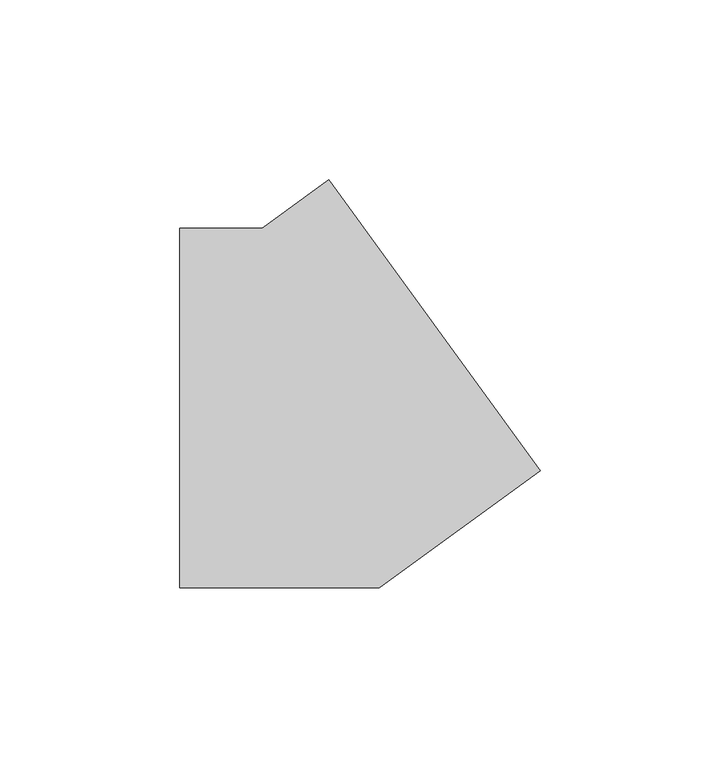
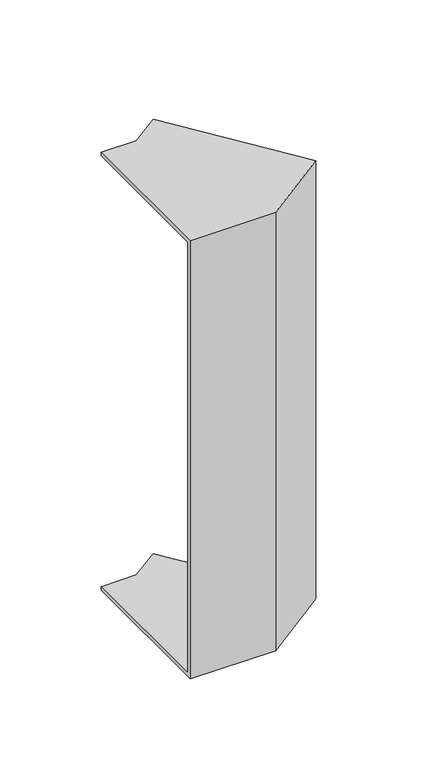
"""IFC4 building model written with IfcOpenShell, lengths in millimetres: cable carrier fitting geometry, ADSK_Поворот вертикальный внутренний_Минимальный размер : Неперфорированный."""

from ifc_helpers import new_model, si_unit, origin, place, context, project, spatial, faceted_brep, source, transform, mapped, element, save


def cable_carrier_fitting_02251f9b(model_context):
    return source(origin(), model_context, "Body", "Brep", [
        faceted_brep([(-39.1165681, -50.0, 150.0), (-39.1165681, 50.0, 150.0), (-39.1165681, 50.0, 147.46), (-39.1165681, -47.46, 147.46), (-39.1165681, -47.46, -147.46), (-39.1165681, 50.0, -147.46), (-39.1165681, 50.0, -150.0), (-39.1165681, -50.0, -150.0), (61.035231, -17.4587079, 150.0), (61.035231, -17.4587079, -150.0), (2.2567057, 63.4429916, -150.0), (2.2567057, 63.4429916, -147.46), (59.5422564, -15.4038047, -147.46), (59.5422564, -15.4038047, 147.46), (2.2567057, 63.4429916, 147.46), (2.2567057, 63.4429916, 150.0), (16.2459848, -50.0, 150.0), (-16.2459848, 50.0, 150.0), (-16.2459848, 50.0, 147.46), (15.4206888, -47.46, 147.46), (15.4206888, -47.46, -147.46), (-16.2459848, 50.0, -147.46), (-16.2459848, 50.0, -150.0), (16.2459848, -50.0, -150.0)], [[[0, 1, 2, 3, 4, 5, 6, 7]], [[8, 9, 10, 11, 12, 13, 14, 15]], [[1, 0, 16, 8, 15, 17]], [[2, 1, 17, 18]], [[3, 2, 18, 14, 13, 19]], [[4, 3, 19, 20]], [[5, 4, 20, 12, 11, 21]], [[6, 5, 21, 22]], [[7, 6, 22, 10, 9, 23]], [[0, 7, 23, 16]], [[18, 17, 15, 14]], [[20, 19, 13, 12]], [[22, 21, 11, 10]], [[16, 23, 9, 8]]]),
    ])


if __name__ == "__main__":
    model = new_model("IFC4")
    model_context = context("Model", 3, world=origin())
    ifc_project = project(units=[si_unit("LENGTHUNIT", "METRE", prefix="MILLI")], contexts=[model_context])
    site = spatial("IfcSite", under=ifc_project)
    building = spatial("IfcBuilding", under=site)
    placement = place(None, origin())
    cable_carrier_fitting_shape = cable_carrier_fitting_02251f9b(model_context)
    element("IfcCableCarrierFitting", 1, ObjectType="ADSK_Поворот вертикальный внутренний_Минимальный размер : Неперфорированный", at=placement, inside=building, context=model_context, shape_type="MappedRepresentation", body=[
        mapped(cable_carrier_fitting_shape, transform((0.0, 0.0, 0.0), x_axis=(1.0, 0.0, 0.0), y_axis=(0.0, 1.0, 0.0), z_axis=(0.0, 0.0, 1.0))),
    ])
    save(model, "model.ifc")
